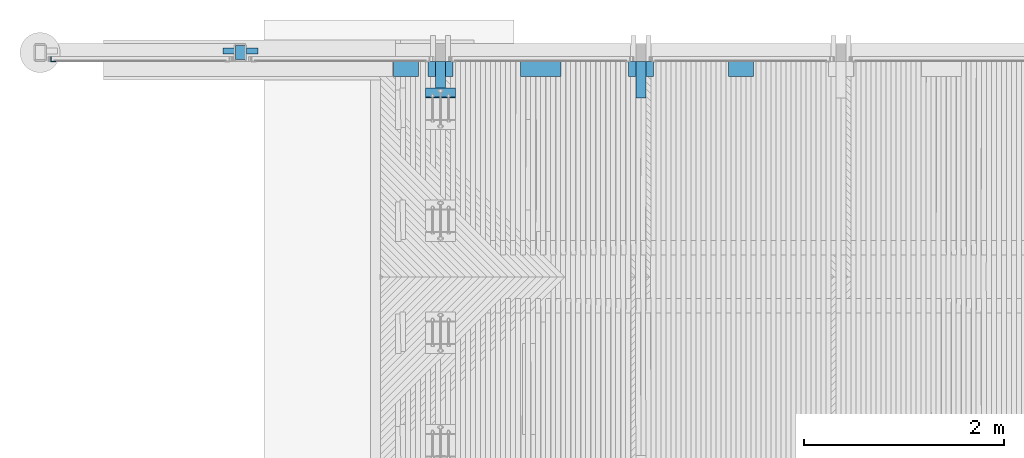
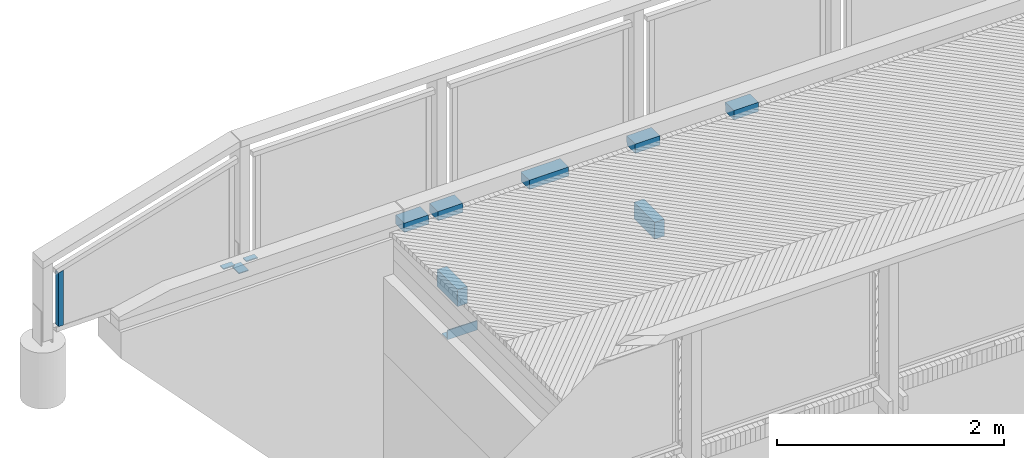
# One storey, part 52 of 65: 12 beams.
"""IFC2X3 building model written with IfcOpenShell, lengths in millimetres."""

import ifcopenshell
import ifcopenshell.guid

model = None  # the IFC model being written
_history = None  # IfcOwnerHistory: only IFC2X3 demands one
_inside = {}  # id of a spatial element -> (the spatial element, [elements in it])
_under = {}  # id of a project, library or spatial element -> (it, [spatial elements below it])
_declared = {}  # id of a project -> (the project, [libraries it declares])
_typed = {}  # id of a type object -> (the type object, [elements of that type])
_made_of = {}  # id of a material, layer set ... -> (it, [elements and type objects made of it])


def new_model(schema):
    """Start an empty IFC model of exactly this schema.

    Asked for "IFC4X3", IfcOpenShell would pick the latest addendum, in which some entities
    have other attributes; the version numbers below select the first issue.
    IFC2X3 requires an IfcOwnerHistory on every rooted entity: one is made here for all.
    """
    global model, _history
    if schema == "IFC4X3":
        model = ifcopenshell.file(schema_version=(4, 3, 0, 0))
    else:
        model = ifcopenshell.file(schema=schema)
    _inside.clear()
    _under.clear()
    _declared.clear()
    _typed.clear()
    _made_of.clear()
    _history = None
    if model.schema == "IFC2X3":
        org = make("IfcOrganization", Name="unknown")
        user = make(
            "IfcPersonAndOrganization",
            ThePerson=make("IfcPerson", FamilyName="unknown"),
            TheOrganization=org,
        )
        app = make(
            "IfcApplication",
            ApplicationDeveloper=org,
            Version="unknown",
            ApplicationFullName="unknown",
            ApplicationIdentifier="unknown",
        )
        _history = make(
            "IfcOwnerHistory",
            OwningUser=user,
            OwningApplication=app,
            ChangeAction="ADDED",
            CreationDate=0,
        )
    return model


def make(cls, **values):
    """One entity of the class cls with the attributes given. An attribute that is None is left unset."""
    return model.create_entity(
        cls, **{name: value for name, value in values.items() if value is not None}
    )


def rooted(cls, **values):
    """An entity with a GlobalId (a new one), such as an element, a storey or a relation."""
    return make(cls, GlobalId=ifcopenshell.guid.new(), OwnerHistory=_history, **values)


def si_unit(unit_type, name, prefix=None):
    """IfcSIUnit, for example si_unit("LENGTHUNIT", "METRE", prefix="MILLI")."""
    return make("IfcSIUnit", UnitType=unit_type, Prefix=prefix, Name=name)


def assignment(units):
    """IfcUnitAssignment: the units of a project."""
    return None if units is None else make("IfcUnitAssignment", Units=units)


def point(xyz):
    """IfcCartesianPoint."""
    return None if xyz is None else make("IfcCartesianPoint", Coordinates=xyz)


def direction(xyz):
    """IfcDirection."""
    return None if xyz is None else make("IfcDirection", DirectionRatios=xyz)


def frame(location, z_axis=None, x_axis=None):
    """IfcAxis2Placement3D, a coordinate frame: its origin and axes. An axis left out is left unset."""
    return make(
        "IfcAxis2Placement3D",
        Location=point(location),
        Axis=direction(z_axis),
        RefDirection=direction(x_axis),
    )


def origin_with_axes():
    """The frame at (0, 0, 0) with the z axis (0, 0, 1) and the x axis (1, 0, 0) written out."""
    return frame((0.0, 0.0, 0.0), z_axis=(0.0, 0.0, 1.0), x_axis=(1.0, 0.0, 0.0))


def place(relative_to, where):
    """IfcLocalPlacement: puts the frame where relative to a parent placement (None: the world)."""
    return make(
        "IfcLocalPlacement", PlacementRelTo=relative_to, RelativePlacement=where
    )


def context(
    kind, dimensions, precision=None, world=None, true_north=None, identifier=None
):
    """IfcGeometricRepresentationContext, for example the 3D "Model" context."""
    return make(
        "IfcGeometricRepresentationContext",
        ContextIdentifier=identifier,
        ContextType=kind,
        CoordinateSpaceDimension=dimensions,
        Precision=precision,
        WorldCoordinateSystem=world,
        TrueNorth=true_north,
    )


def subcontext(parent, identifier, kind, view, scale=None):
    """IfcGeometricRepresentationSubContext, for example "Body" below "Model"."""
    return make(
        "IfcGeometricRepresentationSubContext",
        ContextIdentifier=identifier,
        ContextType=kind,
        ParentContext=parent,
        TargetScale=scale,
        TargetView=view,
    )


def project(units=None, contexts=None):
    """IfcProject with its units and contexts."""
    return rooted(
        "IfcProject",
        Name="project",
        RepresentationContexts=contexts,
        UnitsInContext=assignment(units),
    )


def spatial(cls, under=None, at=None, **own):
    """A site, building, storey or space (cls), placed at a placement, below another one or the project."""
    s = rooted(cls, ObjectPlacement=at, **own)
    if under is not None:
        _under.setdefault(under.id(), (under, []))[1].append(s)
    return s


def faces_of(points, faces, orient=None, outer=None):
    """IfcFace entities. A face is a list of loops; a loop is a list of indices into points, from 0.

    orient and outer hold one flag for each loop. By default every Orientation is true, the
    first loop of a face is its IfcFaceOuterBound and the others are IfcFaceBound.
    """
    made = []
    for i, loops in enumerate(faces):
        bounds = []
        for j, loop in enumerate(loops):
            is_outer = j == 0 if outer is None else outer[i][j]
            bounds.append(
                make(
                    "IfcFaceOuterBound" if is_outer else "IfcFaceBound",
                    Bound=make("IfcPolyLoop", Polygon=[points[k] for k in loop]),
                    Orientation=True if orient is None else orient[i][j],
                )
            )
        made.append(make("IfcFace", Bounds=bounds))
    return made


def faceted_brep(points, faces, orient=None, outer=None, voids=None):
    """IfcFacetedBrep: a solid bounded by flat faces; with voids (closed shells), ...WithVoids."""
    shared = [point(p) for p in points]
    hull = make("IfcClosedShell", CfsFaces=faces_of(shared, faces, orient, outer))
    if voids is None:
        return make("IfcFacetedBrep", Outer=hull)
    return make(
        "IfcFacetedBrepWithVoids",
        Outer=hull,
        Voids=[
            make(cls, CfsFaces=faces_of(shared, fs, o, b)) for cls, fs, o, b in voids
        ],
    )


def shape(context_of_items, identifier, shape_type, items):
    """IfcShapeRepresentation: the items that make up one representation, for example the "Body"."""
    return make(
        "IfcShapeRepresentation",
        ContextOfItems=context_of_items,
        RepresentationIdentifier=identifier,
        RepresentationType=shape_type,
        Items=items,
    )


def material(Name=None, Category=None):
    """IfcMaterial."""
    return make("IfcMaterial", Name=Name, Category=Category)


def made_of(thing, what):
    """Note that an element or type object is made of a material, layer set ...; save() writes the relation."""
    if what is not None:
        _made_of.setdefault(what.id(), (what, []))[1].append(thing)
    return thing


def type_object(cls, material=None, **own):
    """A type object (cls), such as IfcWallType, which elements share."""
    return made_of(rooted(cls, **own), material)


def element(
    cls,
    number,
    at=None,
    inside=None,
    cuts=None,
    type_object=None,
    material=None,
    context=None,
    identifier="Body",
    shape_type=None,
    held_by="IfcProductDefinitionShape",
    body=None,
    shapes=None,
    **own,
):
    """One element of the class cls, such as IfcWall. Its Tag is "e" and its number.

    at: its placement. inside: the storey or other place that contains it. cuts: it is an
    opening in that element (IfcRelVoidsElement). A single representation is given by context,
    identifier, shape_type and body (its items); several are given by shapes. held_by: the class
    of the entity that holds the representations. save() writes the other relations.
    """
    e = rooted(cls, Tag="e%d" % number, ObjectPlacement=at, **own)
    if body is not None:
        shapes = [shape(context, identifier, shape_type, body)]
    if shapes is not None:
        e.Representation = make(held_by, Representations=shapes)
    if inside is not None:
        _inside.setdefault(inside.id(), (inside, []))[1].append(e)
    if cuts is not None:
        rooted(
            "IfcRelVoidsElement", RelatingBuildingElement=cuts, RelatedOpeningElement=e
        )
    if type_object is not None:
        _typed.setdefault(type_object.id(), (type_object, []))[1].append(e)
    return made_of(e, material)


def aggregate(whole, parts):
    """IfcRelAggregates: a whole, such as a stair, and the parts it consists of."""
    return rooted("IfcRelAggregates", RelatingObject=whole, RelatedObjects=parts)


def save(model, path):
    """Write the relations noted so far, then the file.

    IfcRelAggregates (storeys below a building ...), IfcRelContainedInSpatialStructure (elements
    in a storey), IfcRelDefinesByType, IfcRelAssociatesMaterial and IfcRelDeclares: one each for
    every whole, place, type object, material and project.
    """
    for whole, parts in _under.values():
        aggregate(whole, parts)
    for where, things in _inside.values():
        rooted(
            "IfcRelContainedInSpatialStructure",
            RelatedElements=things,
            RelatingStructure=where,
        )
    for kind, things in _typed.values():
        rooted("IfcRelDefinesByType", RelatedObjects=things, RelatingType=kind)
    for what, things in _made_of.values():
        rooted("IfcRelAssociatesMaterial", RelatedObjects=things, RelatingMaterial=what)
    for by, libraries in _declared.values():
        rooted("IfcRelDeclares", RelatingContext=by, RelatedDefinitions=libraries)
    model.write(path)


model = new_model("IFC2X3")

# Units and contexts
model_context = context("Model", 3, precision=1e-05, world=origin_with_axes())
body_context = subcontext(model_context, "Body", "Model", "MODEL_VIEW")
ifc_project = project(units=[si_unit("LENGTHUNIT", "METRE", prefix="MILLI"), si_unit("AREAUNIT", "SQUARE_METRE"), si_unit("VOLUMEUNIT", "CUBIC_METRE"), si_unit("MASSUNIT", "GRAM", prefix="KILO"), si_unit("TIMEUNIT", "SECOND"), si_unit("PLANEANGLEUNIT", "RADIAN"), si_unit("SOLIDANGLEUNIT", "STERADIAN"), si_unit("THERMODYNAMICTEMPERATUREUNIT", "DEGREE_CELSIUS"), si_unit("LUMINOUSINTENSITYUNIT", "LUMEN")], contexts=[model_context])

# Site, building, storey
site_placement = place(None, origin_with_axes())
site = spatial("IfcSite", under=ifc_project, at=site_placement, Name="Undefined", CompositionType="ELEMENT")
building_placement = place(site_placement, origin_with_axes())
building = spatial("IfcBuilding", under=site, at=building_placement, Name="Undefined", CompositionType="ELEMENT")
storey_placement = place(building_placement, origin_with_axes())
storey = spatial("IfcBuildingStorey", under=building, at=storey_placement, Name="Undefined", CompositionType="ELEMENT", Elevation=0.0)

# Beams
ifc_material_1 = material(Name="STEEL/AISI316")
beam_type_1 = type_object("IfcBeamType", Name="PL60*10", PredefinedType="NOTDEFINED")
for number, where, z_axis, x_axis in (
    (1, (-2059.99650392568, 24620.0000002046, 3175.9199999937), (0.000116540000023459, -0.999999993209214, 0.0), (-0.999999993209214, -0.000116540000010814, 0.0)),
    (2, (-1940.00349607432, 24620.0000002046, 3175.91999999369), (-0.000116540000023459, -0.999999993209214, 0.0), (0.999999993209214, -0.000116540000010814, 0.0)),
):
    element("IfcBeam", number, at=place(storey_placement, frame(where, z_axis=z_axis, x_axis=x_axis)), inside=storey, type_object=beam_type_1, material=ifc_material_1, Name="KAIDEPYLVÄS", ObjectType="PL60*10", context=body_context, shape_type="Brep", body=[
        faceted_brep([(0.0, 5.0, -30.0), (0.0, 5.0, 30.0), (115.000000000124, 5.0, 30.0), (115.00000000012, 5.0, -30.0), (0.0, -5.0, 30.0), (115.000000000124, -5.0, 30.0), (0.0, -5.0, -30.0), (115.00000000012, -5.0, -30.0)], [[[0, 1, 2, 3]], [[1, 4, 5, 2]], [[4, 6, 7, 5]], [[6, 0, 3, 7]], [[5, 7, 3, 2]], [[6, 4, 1, 0]]]),
    ])
beam_type_2 = type_object("IfcBeamType", Name="PL100*10", PredefinedType="NOTDEFINED")
beam_1_placement = place(storey_placement, frame((-1999.99999987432, 24674.9800000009, 3117.67000000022), z_axis=(-1.0, 0.0, 0.0), x_axis=(0.0, -1.0, 0.0)))
element("IfcBeam", 3, at=beam_1_placement, inside=storey, type_object=beam_type_2, material=ifc_material_1, Name="KAIDEPYLVÄS", ObjectType="PL100*10", context=body_context, shape_type="Brep", body=[
    faceted_brep([(0.0, 5.0, -50.0), (0.0, 5.0, 50.0), (140.0, 5.0, 50.0), (140.0, 5.0, -50.0), (0.0, -5.0, 50.0), (140.0, -5.0, 50.0), (0.0, -5.0, -50.0), (140.0, -5.0, -50.0)], [[[0, 1, 2, 3]], [[1, 4, 5, 2]], [[4, 6, 7, 5]], [[6, 0, 3, 7]], [[5, 7, 3, 2]], [[6, 4, 1, 0]]]),
])
ifc_material_2 = material(Name="TIMBER/Timber_Undefined")
beam_type_3 = type_object("IfcBeamType", Name="150*100", PredefinedType="NOTDEFINED")
beam_2_placement = place(storey_placement, frame((801.255181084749, 24439.9999999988, 3175.55415743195), z_axis=(0.0, -1.0, 0.0), x_axis=(0.999955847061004, 0.0, 0.0093970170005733)))
element("IfcBeam", 4, at=beam_2_placement, inside=storey, type_object=beam_type_3, material=ifc_material_2, Name="TÖRMÄYSJOHDE", ObjectType="150*100", context=body_context, shape_type="Brep", body=[
    faceted_brep([(-3.63797880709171e-12, 50.0, -75.0), (-3.63797880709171e-12, 50.0, 75.0), (399.996161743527, 49.9999999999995, 75.0), (399.996161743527, 49.9999999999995, -75.0), (0.0, -49.9999999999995, 75.0), (399.996161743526, -50.0000000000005, 75.0), (0.0, -49.9999999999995, -75.0), (399.996161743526, -50.0000000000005, -75.0)], [[[0, 1, 2, 3]], [[1, 4, 5, 2]], [[4, 6, 7, 5]], [[6, 0, 3, 7]], [[5, 7, 3, 2]], [[6, 4, 1, 0]]]),
])
for number, where, z_axis, x_axis in (
    (5, (2876.78354707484, 24439.9999999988, 3196.15064859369), (0.0, -1.0, 0.0), (0.999952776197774, 0.0, 0.00971830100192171)),
    (6, (1876.41959979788, 24439.9999999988, 3186.80706939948), (0.0, -1.0, 0.0), (0.999935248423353, 0.0, 0.0113797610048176)),
    (7, (-124.254815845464, 24439.9999999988, 3163.13350788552), (0.0, -1.0, 0.0), (0.999891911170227, 0.0, 0.0147025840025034)),
    (8, (-469.724815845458, 24439.9999999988, 3158.3535078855), (0.0, -1.0, 0.0), (0.999891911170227, 0.0, 0.0147025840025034)),
):
    element("IfcBeam", number, at=place(storey_placement, frame(where, z_axis=z_axis, x_axis=x_axis)), inside=storey, type_object=beam_type_3, material=ifc_material_2, Name="TÖRMÄYSJOHDE", ObjectType="150*100", context=body_context, shape_type="Brep", body=[
        faceted_brep([(-3.63797880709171e-12, 50.0, -75.0), (-3.63797880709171e-12, 50.0, 75.0), (250.000589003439, 50.0000000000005, 75.0), (250.000589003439, 50.0000000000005, -75.0), (0.0, -49.9999999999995, 75.0), (250.000589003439, -50.0, 75.0), (0.0, -49.9999999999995, -75.0), (250.000589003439, -50.0, -75.0)], [[[0, 1, 2, 3]], [[1, 4, 5, 2]], [[4, 6, 7, 5]], [[6, 0, 3, 7]], [[5, 7, 3, 2]], [[6, 4, 1, 0]]]),
    ])
ifc_material_3 = material(Name="STEEL/S235JR")
beam_type_4 = type_object("IfcBeamType", Name="L50*5", PredefinedType="NOTDEFINED")
beam_3_placement = place(storey_placement, frame((-3867.50116726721, 24539.9900000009, 3780.87123263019), z_axis=(0.0, 1.0, 0.0), x_axis=(0.0, 0.0, -1.0)))
element("IfcBeam", 9, at=beam_3_placement, inside=storey, type_object=beam_type_4, material=ifc_material_3, Name="BEAM", ObjectType="L50*5", context=body_context, shape_type="Brep", body=[
    faceted_brep([(0.433759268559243, 25.0, -25.0), (0.433759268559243, 25.0, 25.0), (575.567211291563, 25.0, 25.0), (575.567211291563, 25.0, -25.0), (-1.05882686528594, 20.0, 25.0), (575.567211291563, 20.0, 25.0), (-1.05882686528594, 20.0, -20.0), (575.567211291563, 20.0, -20.0), (-14.4921020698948, -25.0, -20.0), (575.567211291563, -25.0, -20.0), (-14.4921020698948, -25.0, -25.0), (575.567211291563, -25.0, -25.0)], [[[0, 1, 2, 3]], [[1, 4, 5, 2]], [[4, 6, 7, 5]], [[6, 8, 9, 7]], [[8, 10, 11, 9]], [[10, 0, 3, 11]], [[5, 7, 9, 11, 3, 2]], [[10, 8, 6, 4, 1, 0]]]),
])
beam_type_5 = type_object("IfcBeamType", Name="180*100", PredefinedType="NOTDEFINED")
for number, where, z_axis, x_axis in (
    (10, (2000.00006783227, 24514.9879080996, 2408.46176658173), (0.0, 0.0, 1.0), (0.0, -1.0, 0.0)),
    (11, (7.51175321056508e-07, 24514.9879080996, 2385.26), (0.0, 0.0, 1.0), (0.0, -1.0, 0.0)),
):
    element("IfcBeam", number, at=place(storey_placement, frame(where, z_axis=z_axis, x_axis=x_axis)), inside=storey, type_object=beam_type_5, material=ifc_material_2, Name="KAIDEPYLVÄS", ObjectType="180*100", context=body_context, shape_type="Brep", body=[
        faceted_brep([(0.0, 50.0, -90.0), (0.0, 50.0, 90.0), (362.490000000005, 50.0, 90.0), (362.490000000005, 50.0, -90.0), (0.0, -50.0, 90.0), (362.490000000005, -50.0, 90.0), (0.0, -50.0, -90.0), (362.490000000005, -50.0, -90.0)], [[[0, 1, 2, 3]], [[1, 4, 5, 2]], [[4, 6, 7, 5]], [[6, 0, 3, 7]], [[5, 7, 3, 2]], [[6, 4, 1, 0]]]),
    ])
beam_type_6 = type_object("IfcBeamType", Name="L100*10", PredefinedType="NOTDEFINED")
beam_4_placement = place(storey_placement, frame((150.0, 24202.5000000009, 2025.33), z_axis=(0.0, 0.0, 1.0), x_axis=(-1.0, 0.0, 0.0)))
element("IfcBeam", 12, at=beam_4_placement, inside=storey, type_object=beam_type_6, material=ifc_material_3, Name="BEAM", ObjectType="L100*10", context=body_context, shape_type="Brep", body=[
    faceted_brep([(0.0, 50.0, -50.0), (0.0, 50.0, 50.0), (300.0, 50.0, 50.0), (300.0, 50.0, -50.0), (0.0, 40.0, 50.0), (300.0, 40.0, 50.0), (0.0, 40.0, -40.0), (300.0, 40.0, -40.0), (0.0, -50.0, -40.0), (300.0, -50.0, -40.0), (0.0, -50.0, -50.0), (300.0, -50.0, -50.0)], [[[0, 1, 2, 3]], [[1, 4, 5, 2]], [[4, 6, 7, 5]], [[6, 8, 9, 7]], [[8, 10, 11, 9]], [[10, 0, 3, 11]], [[5, 7, 9, 11, 3, 2]], [[10, 8, 6, 4, 1, 0]]]),
])

save(model, "model.ifc")
